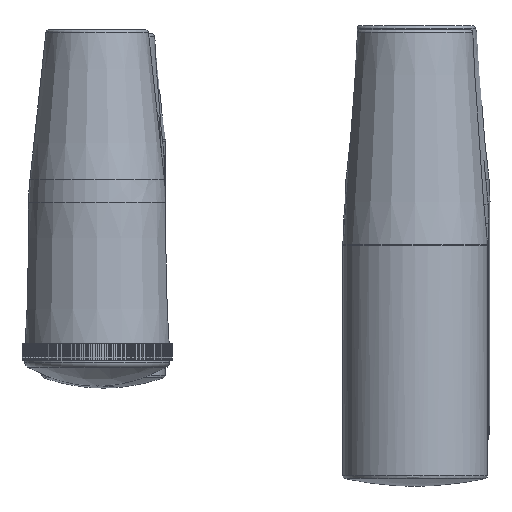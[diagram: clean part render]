
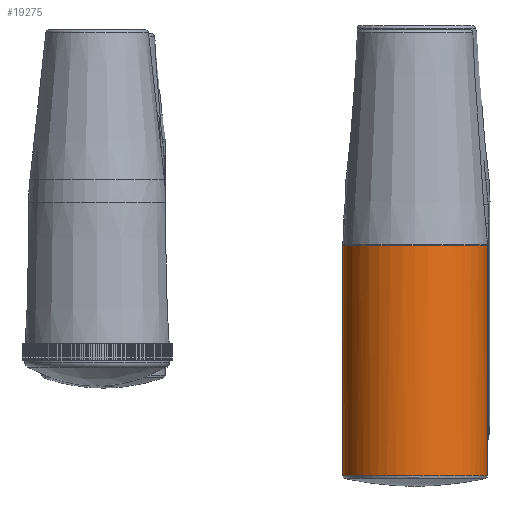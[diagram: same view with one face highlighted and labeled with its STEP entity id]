
A CAD part, left-side view. The second image highlights one B-rep face of the part: STEP entity #19275.
In plain terms, the highlighted cylindrical face has radius 13.5 mm (diameter 27 mm), a full revolution.
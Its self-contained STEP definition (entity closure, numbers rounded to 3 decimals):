
#2830=B_SPLINE_CURVE_WITH_KNOTS('',3,(#33550,#33551,#33552,#33553,#33554,
#33555,#33556,#33557,#33558,#33559,#33560,#33561,#33562,#33563,#33564),
 .UNSPECIFIED.,.T.,.F.,(4,1,1,1,1,1,1,1,1,1,1,1,4),(-3.142,-2.618,
-2.094,-1.571,-1.047,-0.524,
0.,0.524,1.047,1.571,
2.094,2.618,3.142),.UNSPECIFIED.);
#4056=CYLINDRICAL_SURFACE('',#21351,13.5);
#4179=FACE_BOUND('',#6182,.T.);
#5013=FACE_OUTER_BOUND('',#6181,.T.);
#6181=EDGE_LOOP('',(#16990));
#6182=EDGE_LOOP('',(#16991));
#7439=CIRCLE('',#21352,13.5);
#9240=VERTEX_POINT('',#33548);
#9242=VERTEX_POINT('',#33650);
#11873=EDGE_CURVE('',#9240,#9240,#2830,.T.);
#11876=EDGE_CURVE('',#9242,#9242,#7439,.T.);
#16990=ORIENTED_EDGE('',*,*,#11876,.F.);
#16991=ORIENTED_EDGE('',*,*,#11873,.F.);
#19275=ADVANCED_FACE('',(#5013,#4179),#4056,.T.);
#21351=AXIS2_PLACEMENT_3D('',#33649,#26792,#26793);
#21352=AXIS2_PLACEMENT_3D('',#33651,#26794,#26795);
#26792=DIRECTION('center_axis',(0.,0.,-1.));
#26793=DIRECTION('ref_axis',(1.,0.,0.));
#26794=DIRECTION('center_axis',(0.,0.,1.));
#26795=DIRECTION('ref_axis',(1.,0.,0.));
#33548=CARTESIAN_POINT('',(-13.5,0.,-83.098));
#33550=CARTESIAN_POINT('Ctrl Pts',(-13.501,0.,
-83.098));
#33551=CARTESIAN_POINT('Ctrl Pts',(-13.501,2.356,-83.098));
#33552=CARTESIAN_POINT('Ctrl Pts',(-12.238,7.065,-83.098));
#33553=CARTESIAN_POINT('Ctrl Pts',(-7.068,12.241,-83.098));
#33554=CARTESIAN_POINT('Ctrl Pts',(0.,14.132,
-83.098));
#33555=CARTESIAN_POINT('Ctrl Pts',(7.068,12.241,-83.098));
#33556=CARTESIAN_POINT('Ctrl Pts',(12.238,7.066,-83.098));
#33557=CARTESIAN_POINT('Ctrl Pts',(14.132,0.,
-83.098));
#33558=CARTESIAN_POINT('Ctrl Pts',(12.238,-7.066,-83.098));
#33559=CARTESIAN_POINT('Ctrl Pts',(7.068,-12.241,-83.098));
#33560=CARTESIAN_POINT('Ctrl Pts',(0.,-14.132,
-83.098));
#33561=CARTESIAN_POINT('Ctrl Pts',(-7.067,-12.241,-83.098));
#33562=CARTESIAN_POINT('Ctrl Pts',(-12.238,-7.065,
-83.098));
#33563=CARTESIAN_POINT('Ctrl Pts',(-13.501,-2.356,
-83.098));
#33564=CARTESIAN_POINT('Ctrl Pts',(-13.501,0.,
-83.098));
#33649=CARTESIAN_POINT('Origin',(0.,0.,-40.));
#33650=CARTESIAN_POINT('',(-13.5,0.,-40.105));
#33651=CARTESIAN_POINT('Origin',(0.,0.,-40.105));
